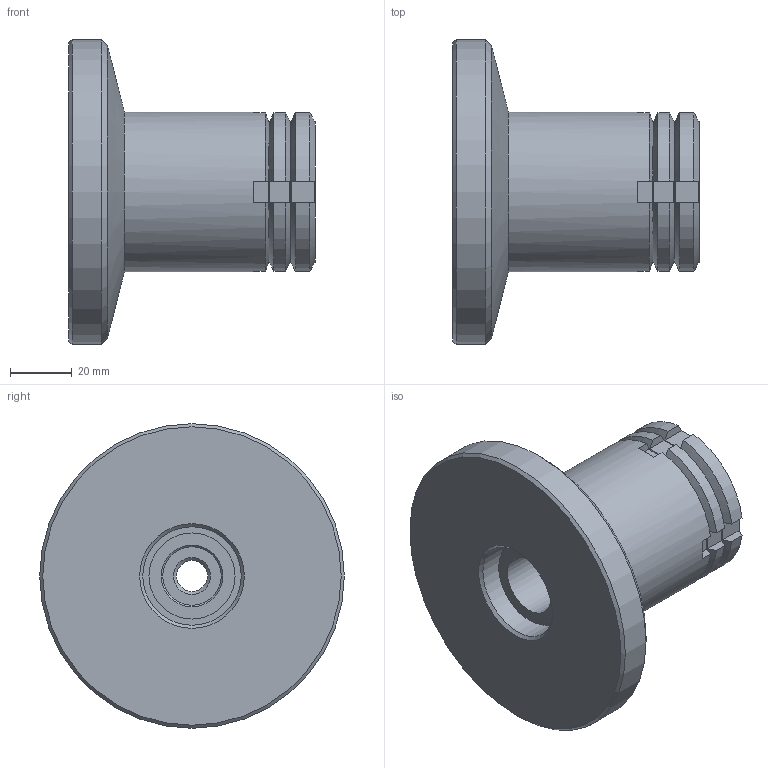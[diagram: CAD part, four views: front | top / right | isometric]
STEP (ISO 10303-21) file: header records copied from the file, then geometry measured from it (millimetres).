
FILE_DESCRIPTION( ( 'STEP AP203' ), '1' );
FILE_NAME( 'C:/Temp/Ganter_Step_05_03_2020/data/3_2/gn360/gn360_st/Levelling set GN 360-99-M12-103-B-ST (0-0).stp', '2020-03-13T05:41:56', ( 'License CC BY-ND 4.0' ), ( 'CADENAS' ), ' ', 'PARTsolutions', ' ' );
FILE_SCHEMA( ( 'CONFIG_CONTROL_DESIGN' ) );
Length unit declared in the file: millimetre
Products named in the file (5): Levelling set GN 360-99-M12-103-B-ST (0-0); _Levelling set GN 360-99-M12-103-B-ST (0-0)-1; _Levelling set GN 360-99-M12-103-B-ST (0-0)-2; _Levelling set GN 360-99-M12-103-B-ST (0-0)-4; _Levelling set GN 360-99-M12-103-B-ST (0-0)-3
Assembly tree (4 placements, depth 2):
  Levelling set GN 360-99-M12-103-B-ST (0-0)
    _Levelling set GN 360-99-M12-103-B-ST (0-0)-1
    _Levelling set GN 360-99-M12-103-B-ST (0-0)-2
    _Levelling set GN 360-99-M12-103-B-ST (0-0)-4
    _Levelling set GN 360-99-M12-103-B-ST (0-0)-3
Bounding box: 80 x 99 x 99 mm (x, y, z)
Volume: 223925.7 mm3; surface area: 55046.5 mm2
Topology: 4 solids, 4 shells, 96 faces, 232 edges, 149 vertices
Faces by surface type: plane 53, cylinder 22, cone 18, sphere 2, torus 1
Full cylindrical faces by diameter (mm): 10.106 x1, 19 x1, 20 x1, 22.5 x1, 27 x1, 28 x1, 32 x1, 34 x1, 34.376 x2, 36 x1, 36.5 x1, 52 x1, 99 x1
Entity records: 2928 total; most frequent: CARTESIAN_POINT 755, DIRECTION 400, ORIENTED_EDGE 378, EDGE_CURVE 189, AXIS2_PLACEMENT_3D 170, EDGE_LOOP 144, VERTEX_POINT 141, FACE_OUTER_BOUND 113
